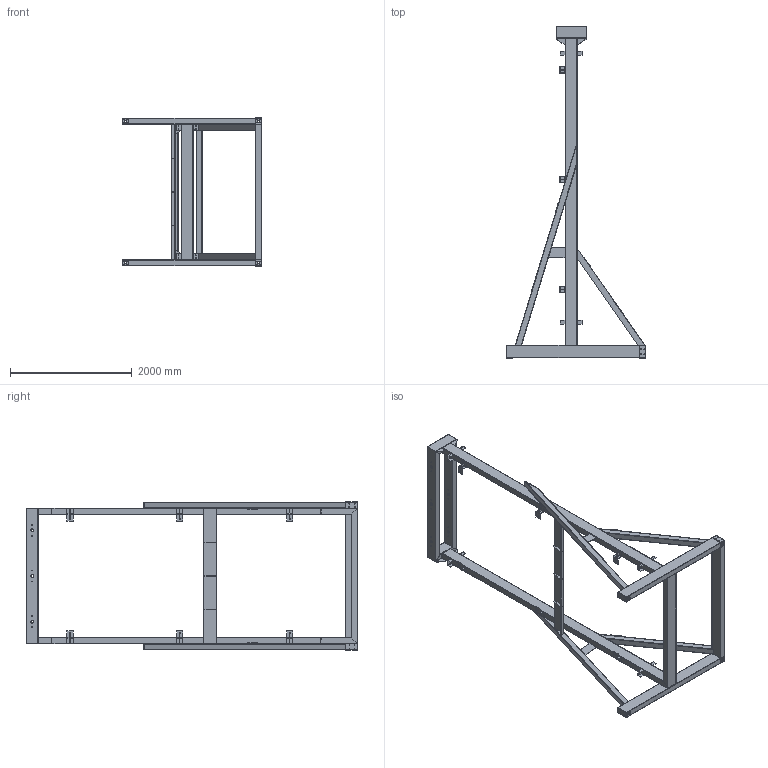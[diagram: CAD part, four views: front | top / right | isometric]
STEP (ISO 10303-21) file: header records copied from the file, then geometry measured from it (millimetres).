
FILE_DESCRIPTION(/* description */ (''),/* implementation_level */ '2;1');
FILE_NAME(/* name */ '2020TOMO-TELAIO-ASSY.00_v12.stp',/* time_stamp */ '2022-05-16T13:11:01+02:00',/* author */ (''),/* organization */ (''),/* preprocessor_version */ 'ST-DEVELOPER v18.102',/* originating_system */ 'SIEMENS PLM Software NX 2000',/* authorisation */ '');
FILE_SCHEMA (('AUTOMOTIVE_DESIGN { 1 0 10303 214 3 1 1 1 }'));
Length unit declared in the file: millimetre
Products named in the file (1): turc3144724Fyy3l
Bounding box: 2285 x 5440 x 2430 mm (x, y, z)
Volume: 60509136.8 mm3; surface area: 38824375.9 mm2
Topology: 111 solids, 111 shells, 1139 faces, 2801 edges, 1882 vertices
Faces by surface type: plane 838, cylinder 293, extrusion 8
Full cylindrical faces by diameter (mm): 6.8 x63, 8.5 x26, 10.5 x14, 14 x24, 36 x12, 46 x12
Entity records: 33721 total; most frequent: CARTESIAN_POINT 5707, DIRECTION 5468, ORIENTED_EDGE 5212, EDGE_CURVE 2606, VECTOR 2006, LINE 1998, VERTEX_POINT 1838, AXIS2_PLACEMENT_3D 1731
